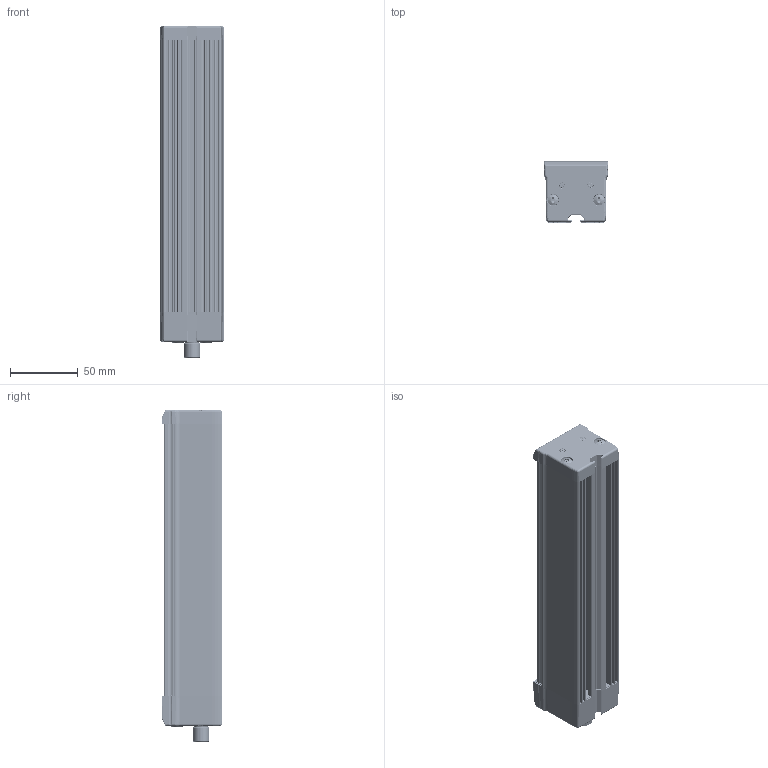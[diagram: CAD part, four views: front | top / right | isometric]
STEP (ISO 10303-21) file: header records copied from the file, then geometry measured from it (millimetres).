
FILE_DESCRIPTION (( 'STEP AP214' ), '1' );
FILE_NAME ('EBAR-C-200.STEP', '2017-11-07T12:50:44', ( '' ), ( '' ), 'SwSTEP 2.0', 'SolidWorks 2014', '' );
FILE_SCHEMA (( 'AUTOMOTIVE_DESIGN' ));
Length unit declared in the file: millimetre
Products named in the file (162): _SSW-103-22-F-D-VS_terminal; Body_1_9; R1; Open CASCADE STEP translator 6.8 1.2.1; R28; Body_1_17; Body_1_5; U4; C2; R2; Q1; Body_1; R13; D1; C4; Open CASCADE STEP translator 6.8 1.37.1; U1; U3; Open CASCADE STEP translator 6.8 1.47.1; Layer_1; R12; Open CASCADE STEP translator 6.8 1.58.1; Open CASCADE STEP translator 6.8 1.7.1; U5; Open CASCADE STEP translator 6.8 1.65.1; Open CASCADE STEP translator 6.8 1.12.1; Pin_3; Button Cover for Curve Function; R11; Pin_2_12; Pin_2_2; Open CASCADE STEP translator 6.8 1.36.1; Pin_3_2; Body_1_8; Pin_2_10; A14054516; R10; Pin_1_13; Pin_1_3; Body_1_12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
Assembly tree (213 placements, depth 7):
  EBAR-C-200
    A14054002
    A14054005
    A14054517
    011843_ASM
      A14054006
      VE80510  x2
    A14054060_ASM
      A14054040_ASM
        1437892_EMBASE_MALE
        A14054027 after modification
      A14054516
      A14054517
      Button Cover for Curve Function
      039875_A Curve_connection_circuit
        Layer_1
        P1
          Open CASCADE STEP translator 6.8 1.2.1
            Body_1
        P2
          Open CASCADE STEP translator 6.8 1.3.1
            Body_1
        U2
          Open CASCADE STEP translator 6.8 1.4.1
            Body_1_2
            Pin_1
        C1
          Open CASCADE STEP translator 6.8 1.5.1
            Body_1_3
            Pin_1_2
            Pin_2
        C3
          Open CASCADE STEP translator 6.8 1.5.1
            Body_1_3
            Pin_1_2
            Pin_2
        C4
          Open CASCADE STEP translator 6.8 1.7.1
            Body_1_4
            Pin_1_3
            Pin_2_2
        C5
          Open CASCADE STEP translator 6.8 1.8.1
            Body_1_5
            Pin_1_4
            Pin_2_3
        C6
          Open CASCADE STEP translator 6.8 1.5.1
            Body_1_3
            Pin_1_2
            Pin_2
        L1
          Open CASCADE STEP translator 6.8 1.10.1
            Body_1_6
            Pin_1_5
            Pin_2_4
        L2
          Open CASCADE STEP translator 6.8 1.11.1
            Body_1_7
            Pin_1_6
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Bounding box: 47.63 x 45 x 245.05 mm (x, y, z)
Volume: 193289.3 mm3; surface area: 184482.1 mm2
Topology: 211 solids, 215 shells, 8825 faces, 22381 edges, 13972 vertices
Faces by surface type: plane 3764, cylinder 2375, bspline 2296, cone 326, torus 64
Entity records: 276092 total; most frequent: CARTESIAN_POINT 118627, ORIENTED_EDGE 29968, DIRECTION 23277, EDGE_CURVE 14984, VERTEX_POINT 9326, AXIS2_PLACEMENT_3D 8182, VECTOR 6913, LINE 6913
